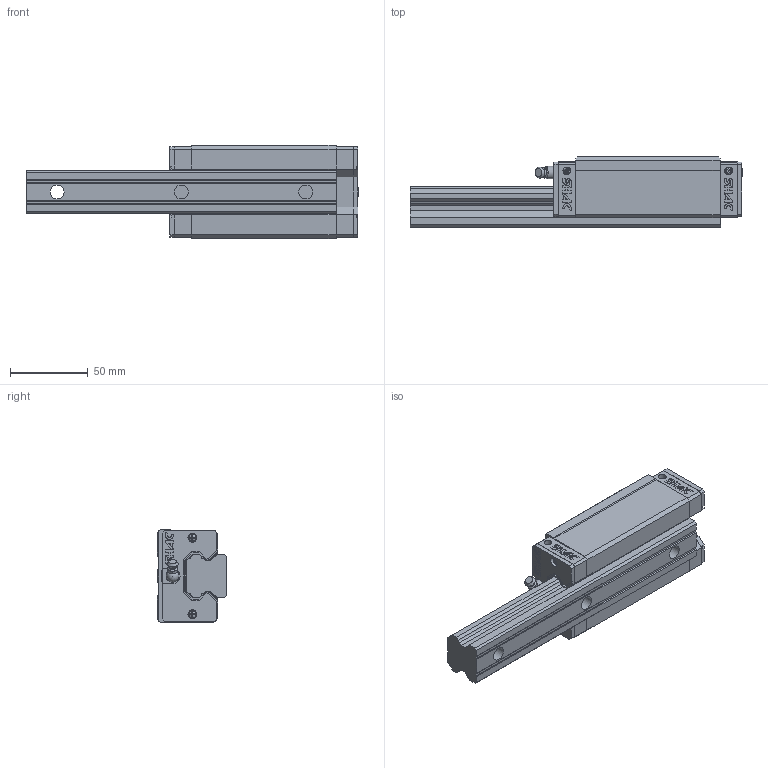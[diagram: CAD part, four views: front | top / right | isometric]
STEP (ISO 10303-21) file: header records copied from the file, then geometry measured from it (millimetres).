
FILE_DESCRIPTION( ( 'STEP AP214' ), '1' );
FILE_NAME( 'F:/品牌/SHAC 台湾鼎翰传动科技有限公司/3D滑块/GHH30HA1R200Z0C-20_20_1_1_.stp', '2025-04-21T22:44:40', ( 'License CC BY-ND 4.0' ), ( 'CADENAS' ), ' ', 'PARTsolutions', ' ' );
FILE_SCHEMA( ( 'AUTOMOTIVE_DESIGN { 1 0 10303 214 1 1 1 1 }' ) );
Length unit declared in the file: millimetre
Products named in the file (8): GHH30HA1R200Z0C-20/20(1_1); _GHR30R200C+RC-20/20(1)_RAIL; _GHH30HA_SLIDER; _GHH30HA_C; _GHH30HA_P; _GH30_SCREW; _GH30_BOLT; _GH30-_G
Assembly tree (12 placements, depth 2):
  GHH30HA1R200Z0C-20/20(1_1)
    _GHR30R200C+RC-20/20(1)_RAIL
    _GHH30HA_SLIDER
    _GHH30HA_C  x2
    _GHH30HA_P  x2
    _GH30_SCREW  x4
    _GH30_BOLT
    _GH30-_G
Bounding box: 213.64 x 45 x 60 mm (x, y, z)
Volume: 331110.2 mm3; surface area: 73052.6 mm2
Topology: 12 solids, 12 shells, 772 faces, 2054 edges, 1359 vertices
Faces by surface type: plane 624, cylinder 108, cone 24, torus 10, sphere 5, bspline 1
Full cylindrical faces by diameter (mm): 0.576 x4, 3.3 x4, 4.5 x1, 4.65 x4, 5.1 x4, 5.82 x4, 6 x2, 6.5 x2, 6.647 x4, 7 x2, 8 x1, 8.2 x1, 9 x3, 14 x3
Entity records: 18048 total; most frequent: CARTESIAN_POINT 2659, ORIENTED_EDGE 2360, DIRECTION 2283, EDGE_CURVE 1180, LINE 975, VECTOR 975, VERTEX_POINT 810, AXIS2_PLACEMENT_3D 654
